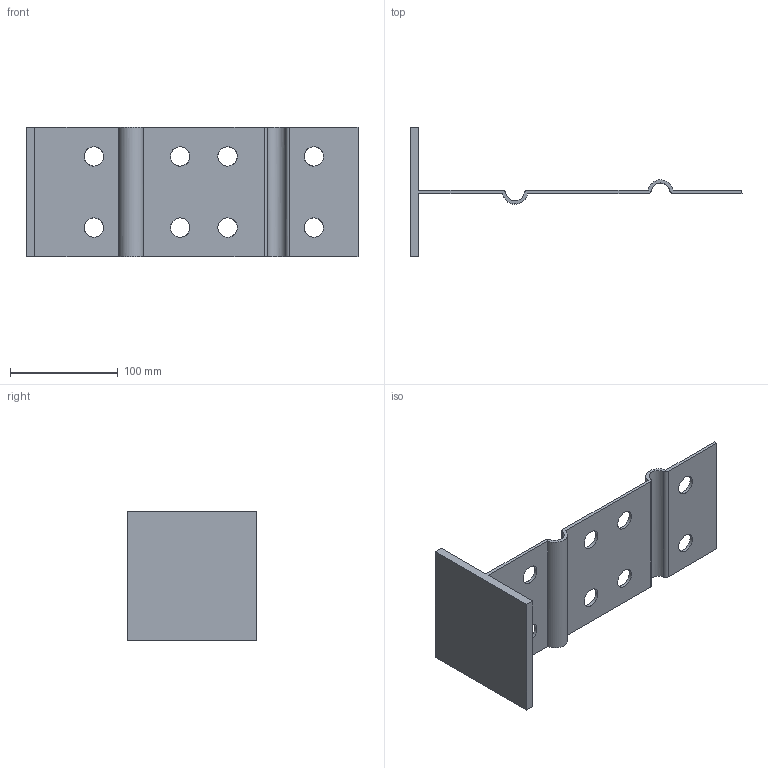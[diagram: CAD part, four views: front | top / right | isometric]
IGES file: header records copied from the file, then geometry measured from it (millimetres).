
Global section: file name: CTB300; native system: Autodesk RealDWG; preprocessor: Autodesk Translation Framework DWG producer (atf_dwg_producer); organization: unknown; date: 20241104.101628; units: millimetre
Bounding box: 308 x 120 x 120 mm (x, y, z)
Volume: 224110.5 mm3; surface area: 108534 mm2
Topology: 1 solids, 1 shells, 30 faces, 84 edges, 56 vertices
Faces by surface type: bspline 30
